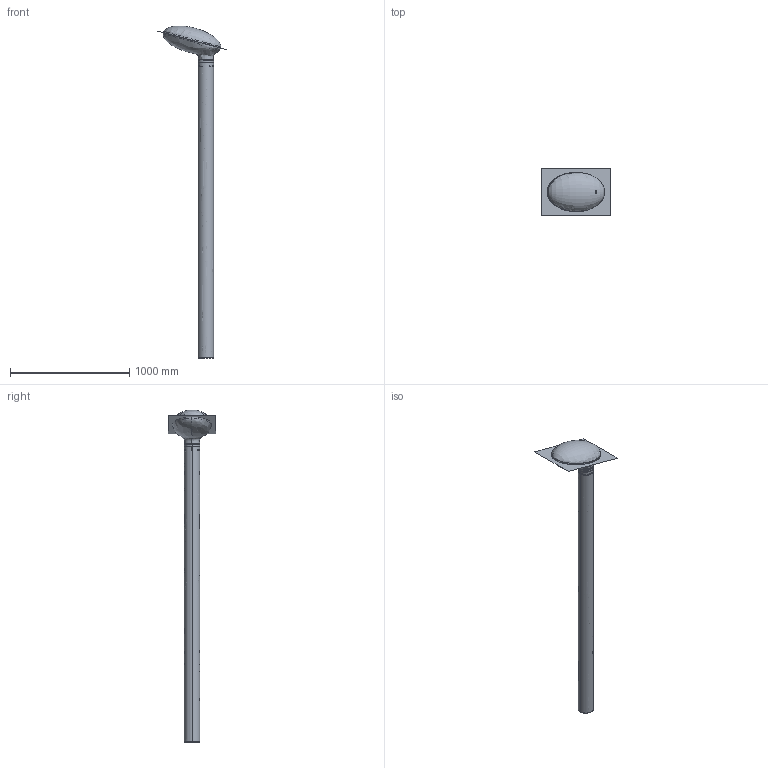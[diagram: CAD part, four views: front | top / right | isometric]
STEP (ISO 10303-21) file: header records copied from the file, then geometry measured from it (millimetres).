
FILE_DESCRIPTION(/* description */ (''),/* implementation_level */ '2;1');
FILE_NAME(/* name */ 'T082600_POTO',/* time_stamp */ '2018-01-29T12:08:42+01:00',/* author */ (''),/* organization */ (''),/* preprocessor_version */ 'ST-DEVELOPER v15',/* originating_system */ '',/* authorisation */ '');
FILE_SCHEMA (('CONFIG_CONTROL_DESIGN'));
Length unit declared in the file: millimetre
Products named in the file (1): Document
Bounding box: 583.5 x 400.67 x 2788.53 mm (x, y, z)
Volume: 33246532 mm3; surface area: 4249442.5 mm2
Topology: 11 solids, 320 shells, 1452 faces, 4354 edges, 3024 vertices
Faces by surface type: bspline 1091, plane 361
Entity records: 92586 total; most frequent: CARTESIAN_POINT 69372, ORIENTED_EDGE 6961, EDGE_CURVE 4286, VERTEX_POINT 3041, B_SPLINE_CURVE_WITH_KNOTS 2471, EDGE_LOOP 1553, ADVANCED_FACE 1451, FACE_OUTER_BOUND 1451
